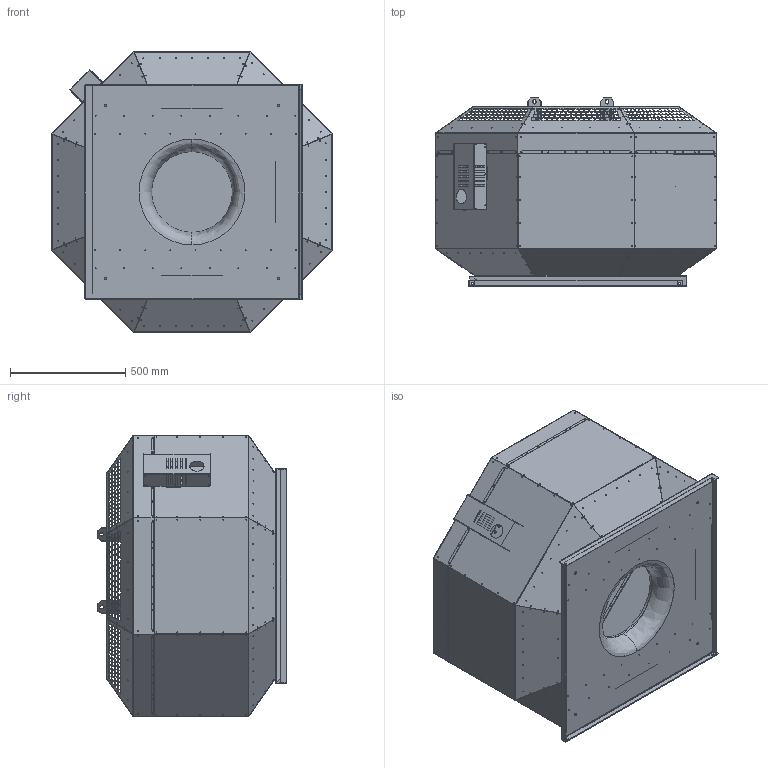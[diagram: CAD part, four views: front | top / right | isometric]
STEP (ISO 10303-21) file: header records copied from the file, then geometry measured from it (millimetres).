
FILE_DESCRIPTION (( 'STEP AP203' ), '1' );
FILE_NAME ('145043-01_DVNI560D430_step.step', '2018-07-18T07:46:38', ( '' ), ( '' ), 'SwSTEP 2.0', 'SolidWorks 2017', '' );
FILE_SCHEMA (( 'CONFIG_CONTROL_DESIGN' ));
Products named in the file (1): 145043-01_DVNI560D430_step
Bounding box: 1218 x 816.3 x 1218 mm (x, y, z)
Surface area: 10273125.2 mm2 (no closed solid volume)
Topology: 0 solids, 51 shells, 1694 faces, 15690 edges, 13305 vertices
Faces by surface type: plane 1355, cylinder 328, bspline 9, torus 2
Entity records: 150689 total; most frequent: CARTESIAN_POINT 34379, DIRECTION 21153, ORIENTED_EDGE 19231, EDGE_CURVE 15690, VERTEX_POINT 13305, LINE 13263, VECTOR 13263, EDGE_LOOP 5258
